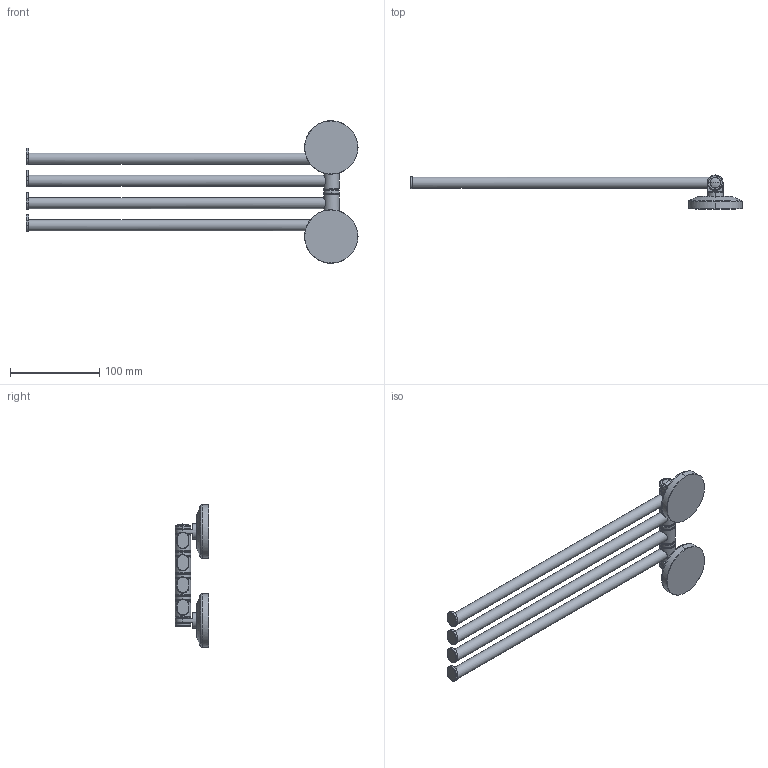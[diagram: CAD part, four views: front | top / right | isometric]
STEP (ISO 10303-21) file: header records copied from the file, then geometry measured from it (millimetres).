
FILE_DESCRIPTION(('THIS FILE CONTAINS SOME STEP INSTANCES'),'1');
FILE_NAME('sta_046.stp','2015-12-07T11:42:59',('UNDEFINED'),('UNDEFINED'),'T-FLEX CAD STEP converter','T-FLEX CAD','');
FILE_SCHEMA(('CONFIG_CONTROL_DESIGN'));
Length unit declared in the file: metre
Products named in the file (8): 3D 鐨飹懤艜_28; 3D 鐨飹懤艜_40; 3D 鐨飹懤艜_56; 3D 鐨飹懤艜_48; 3D 鐨飹懤艜_7; 3D 鐨飹懤艜_3; 髓礤轫 爨耨桠_59
Bounding box: 373 x 38 x 160 mm (x, y, z)
Volume: 264395.2 mm3; surface area: 78950.2 mm2
Topology: 8 solids, 8 shells, 299 faces, 650 edges, 381 vertices
Faces by surface type: cone 104, plane 73, cylinder 70, torus 30, bspline 16, sphere 6
Entity records: 13285 total; most frequent: CARTESIAN_POINT 7421, ORIENTED_EDGE 1288, DIRECTION 1070, EDGE_CURVE 644, AXIS2_PLACEMENT_3D 404, VERTEX_POINT 381, EDGE_LOOP 319, ADVANCED_FACE 299
